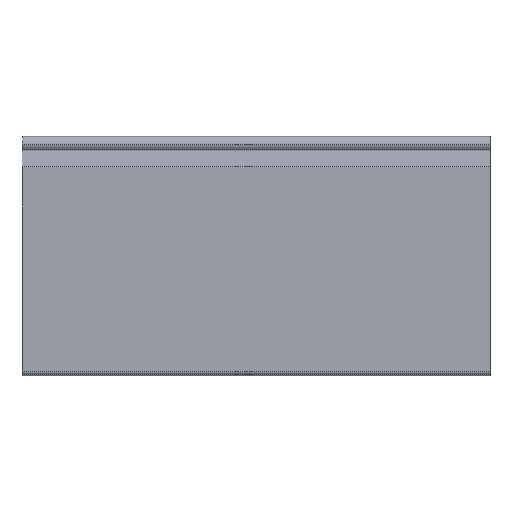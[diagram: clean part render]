
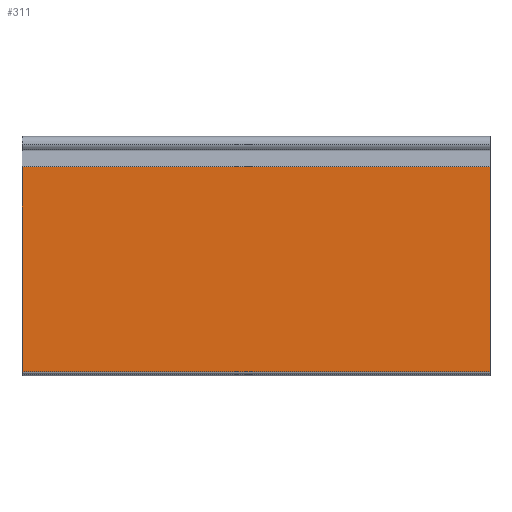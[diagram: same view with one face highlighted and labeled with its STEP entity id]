
A CAD part, top view. The second image highlights one B-rep face of the part: STEP entity #311.
In plain terms, the highlighted planar face has unit normal (0, 0, 1).
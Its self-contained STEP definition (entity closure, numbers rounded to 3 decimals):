
#167 = FACE_OUTER_BOUND ( 'NONE', #816, .T. ) ;
#185 = LINE ( 'NONE', #1105, #216 ) ;
#216 = VECTOR ( 'NONE', #1109, 1000. ) ;
#311 = ADVANCED_FACE ( 'NONE', ( #167 ), #677, .F. ) ;
#404 = LINE ( 'NONE', #1249, #405 ) ;
#405 = VECTOR ( 'NONE', #1250, 1000. ) ;
#420 = LINE ( 'NONE', #1267, #421 ) ;
#421 = VECTOR ( 'NONE', #1268, 1000. ) ;
#424 = LINE ( 'NONE', #1271, #425 ) ;
#425 = VECTOR ( 'NONE', #1272, 1000. ) ;
#504 = VERTEX_POINT ( 'NONE', #714 ) ;
#544 = VERTEX_POINT ( 'NONE', #753 ) ;
#564 = VERTEX_POINT ( 'NONE', #1051 ) ;
#571 = VERTEX_POINT ( 'NONE', #1058 ) ;
#676 = CARTESIAN_POINT ( 'NONE',  ( 125., -12.164, 4.05 ) ) ;
#677 = PLANE ( 'NONE',  #1045 ) ;
#679 = DIRECTION ( 'NONE',  ( 0., 0., -1. ) ) ;
#680 = DIRECTION ( 'NONE',  ( 0., 1., 0. ) ) ;
#714 = CARTESIAN_POINT ( 'NONE',  ( -125., -121.663, 4.05 ) ) ;
#753 = CARTESIAN_POINT ( 'NONE',  ( 125., -121.663, 4.05 ) ) ;
#816 = EDGE_LOOP ( 'NONE', ( #854, #853, #852, #851 ) ) ;
#851 = ORIENTED_EDGE ( 'NONE', *, *, #988, .T. ) ;
#852 = ORIENTED_EDGE ( 'NONE', *, *, #919, .F. ) ;
#853 = ORIENTED_EDGE ( 'NONE', *, *, #986, .F. ) ;
#854 = ORIENTED_EDGE ( 'NONE', *, *, #977, .T. ) ;
#919 = EDGE_CURVE ( 'NONE', #564, #544, #185, .T. ) ;
#977 = EDGE_CURVE ( 'NONE', #571, #504, #404, .T. ) ;
#986 = EDGE_CURVE ( 'NONE', #544, #504, #420, .T. ) ;
#988 = EDGE_CURVE ( 'NONE', #564, #571, #424, .T. ) ;
#1045 = AXIS2_PLACEMENT_3D ( 'NONE', #676, #679, #680 ) ;
#1051 = CARTESIAN_POINT ( 'NONE',  ( 125., -12.164, 4.05 ) ) ;
#1058 = CARTESIAN_POINT ( 'NONE',  ( -125., -12.164, 4.05 ) ) ;
#1105 = CARTESIAN_POINT ( 'NONE',  ( 125., -12.164, 4.05 ) ) ;
#1109 = DIRECTION ( 'NONE',  ( 0., -1., 0. ) ) ;
#1249 = CARTESIAN_POINT ( 'NONE',  ( -125., -12.164, 4.05 ) ) ;
#1250 = DIRECTION ( 'NONE',  ( 0., -1., 0. ) ) ;
#1267 = CARTESIAN_POINT ( 'NONE',  ( 125., -121.663, 4.05 ) ) ;
#1268 = DIRECTION ( 'NONE',  ( -1., 0., 0. ) ) ;
#1271 = CARTESIAN_POINT ( 'NONE',  ( 125., -12.164, 4.05 ) ) ;
#1272 = DIRECTION ( 'NONE',  ( -1., 0., 0. ) ) ;
